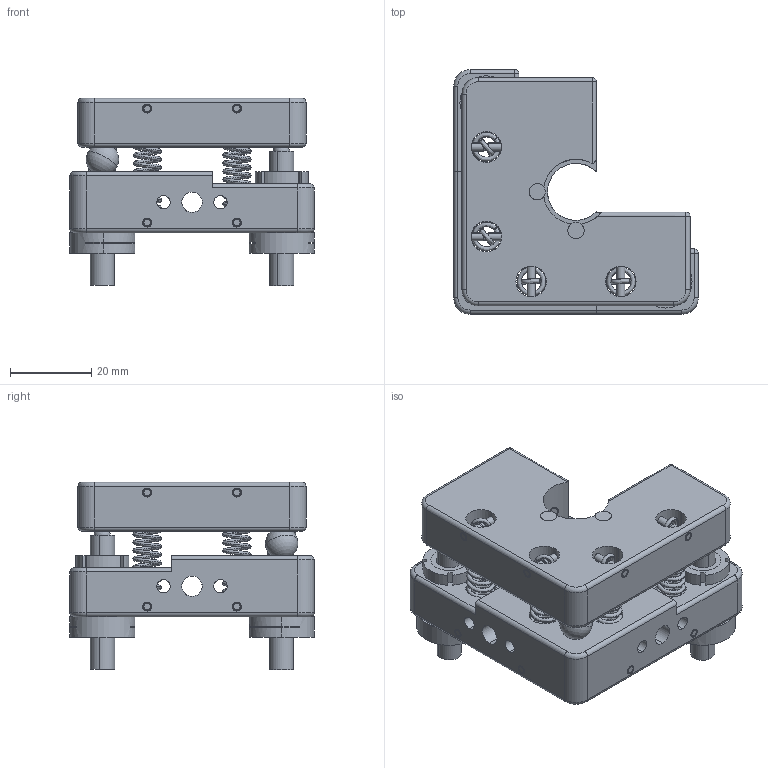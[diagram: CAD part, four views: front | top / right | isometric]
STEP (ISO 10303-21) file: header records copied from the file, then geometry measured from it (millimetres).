
FILE_DESCRIPTION (( 'STEP AP203' ), '1' );
FILE_NAME ('7MM1615謗峎覃淕噩殤.STEP', '2019-10-22T05:59:20', ( '' ), ( '' ), 'SwSTEP 2.0', 'SolidWorks 2014', '' );
FILE_SCHEMA (( 'CONFIG_CONTROL_DESIGN' ));
Length unit declared in the file: millimetre
Products named in the file (1): 7MM1615謗峎覃淕噩殤
Bounding box: 60 x 60 x 46.01 mm (x, y, z)
Surface area: 24119.2 mm2 (no closed solid volume)
Topology: 0 solids, 40 shells, 376 faces, 1047 edges, 661 vertices
Faces by surface type: cylinder 166, plane 98, torus 44, bspline 32, cone 22, sphere 14
Entity records: 23819 total; most frequent: CARTESIAN_POINT 14300, DIRECTION 2092, ORIENTED_EDGE 1792, EDGE_CURVE 1006, AXIS2_PLACEMENT_3D 844, VERTEX_POINT 652, CIRCLE 499, EDGE_LOOP 448
